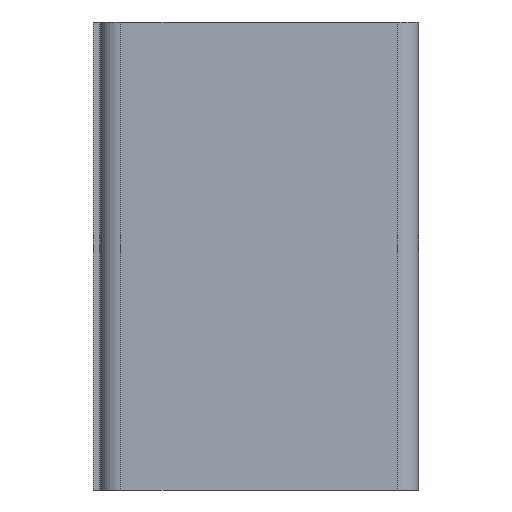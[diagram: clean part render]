
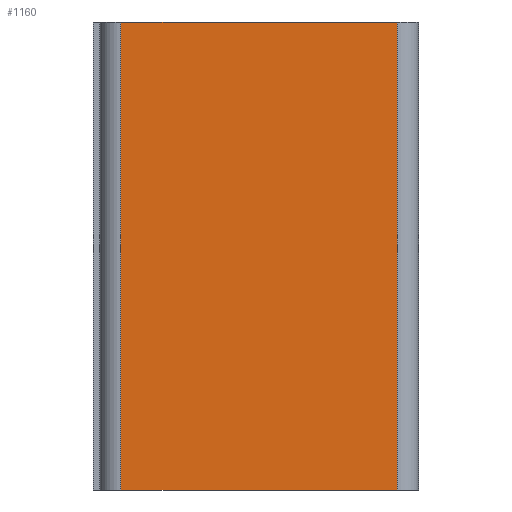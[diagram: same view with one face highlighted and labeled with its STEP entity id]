
A CAD part, left-side view. The second image highlights one B-rep face of the part: STEP entity #1160.
In plain terms, the highlighted planar face has unit normal (-1, 0, 0).
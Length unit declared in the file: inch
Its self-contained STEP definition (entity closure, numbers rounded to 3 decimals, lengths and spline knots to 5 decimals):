
#50=FACE_OUTER_BOUND('',#116,.T.);
#116=EDGE_LOOP('',(#796,#797,#798,#799));
#186=LINE('',#1661,#338);
#188=LINE('',#1667,#340);
#196=LINE('',#1685,#348);
#197=LINE('',#1686,#349);
#338=VECTOR('',#1341,0.022);
#340=VECTOR('',#1347,0.013);
#348=VECTOR('',#1359,0.013);
#349=VECTOR('',#1360,0.022);
#487=VERTEX_POINT('',#1658);
#488=VERTEX_POINT('',#1660);
#490=VERTEX_POINT('',#1666);
#498=VERTEX_POINT('',#1684);
#603=EDGE_CURVE('',#487,#488,#186,.T.);
#606=EDGE_CURVE('',#488,#490,#188,.T.);
#615=EDGE_CURVE('',#498,#487,#196,.T.);
#616=EDGE_CURVE('',#490,#498,#197,.T.);
#796=ORIENTED_EDGE('',*,*,#603,.F.);
#797=ORIENTED_EDGE('',*,*,#615,.F.);
#798=ORIENTED_EDGE('',*,*,#616,.F.);
#799=ORIENTED_EDGE('',*,*,#606,.F.);
#1101=PLANE('',#1240);
#1160=ADVANCED_FACE('',(#50),#1101,.T.);
#1240=AXIS2_PLACEMENT_3D('',#1683,#1357,#1358);
#1341=DIRECTION('',(0.,0.,-1.));
#1347=DIRECTION('',(0.,1.,0.));
#1357=DIRECTION('center_axis',(-1.,0.,0.));
#1358=DIRECTION('ref_axis',(0.,-1.,0.));
#1359=DIRECTION('',(0.,-1.,0.));
#1360=DIRECTION('',(0.,0.,1.));
#1658=CARTESIAN_POINT('',(-0.021,0.001,0.011));
#1660=CARTESIAN_POINT('',(-0.021,0.001,-0.011));
#1661=CARTESIAN_POINT('',(-0.021,0.001,0.));
#1666=CARTESIAN_POINT('',(-0.021,0.014,-0.011));
#1667=CARTESIAN_POINT('',(-0.021,0.015,-0.011));
#1683=CARTESIAN_POINT('Origin',(-0.021,0.015,0.));
#1684=CARTESIAN_POINT('',(-0.021,0.014,0.011));
#1685=CARTESIAN_POINT('',(-0.021,0.015,0.011));
#1686=CARTESIAN_POINT('',(-0.021,0.014,0.));
